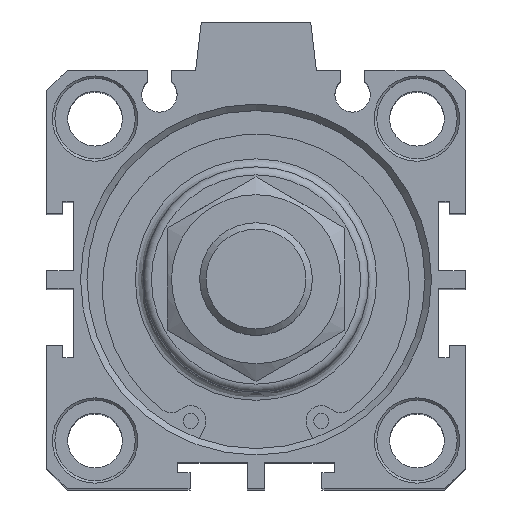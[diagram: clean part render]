
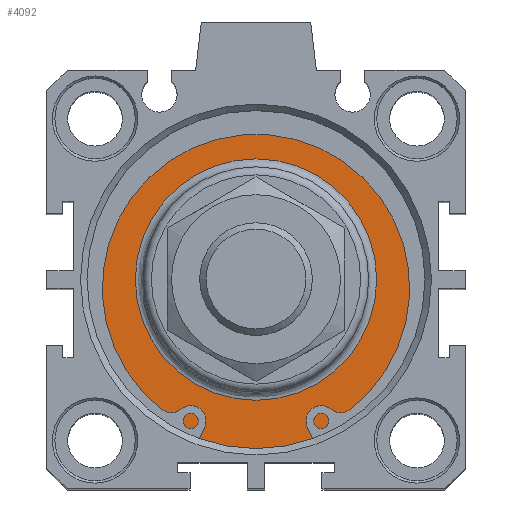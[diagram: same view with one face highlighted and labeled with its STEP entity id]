
A CAD part, top view. The second image highlights one B-rep face of the part: STEP entity #4092.
In plain terms, the highlighted planar face has unit normal (0, 0, 1).
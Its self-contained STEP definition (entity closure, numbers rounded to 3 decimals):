
#4041=CARTESIAN_POINT('',(-1.555,16.077,82.4));
#4042=VERTEX_POINT('',#4041);
#4043=CARTESIAN_POINT('',(-1.555,1.077,82.4));
#4044=DIRECTION('',(0.0,0.0,1.0));
#4045=DIRECTION('',(0.0,-1.0,0.0));
#4046=AXIS2_PLACEMENT_3D('',#4043,#4044,#4045);
#4047=CIRCLE('',#4046,15.0);
#4048=EDGE_CURVE('',#4042,#4042,#4047,.T.);
#4073=CARTESIAN_POINT('',(-1.555,18.577,82.4));
#4074=DIRECTION('',(0.0,0.0,1.0));
#4075=DIRECTION('',(1.0,0.0,0.0));
#4076=AXIS2_PLACEMENT_3D('',#4073,#4074,#4075);
#4077=PLANE('',#4076);
#4078=CARTESIAN_POINT('',(-1.555,22.077,82.4));
#4079=VERTEX_POINT('',#4078);
#4080=CARTESIAN_POINT('',(-1.555,1.077,82.4));
#4081=DIRECTION('',(0.0,0.0,-1.0));
#4082=DIRECTION('',(0.0,1.0,0.0));
#4083=AXIS2_PLACEMENT_3D('',#4080,#4081,#4082);
#4084=CIRCLE('',#4083,21.);
#4085=EDGE_CURVE('',#4079,#4079,#4084,.T.);
#4086=ORIENTED_EDGE('',*,*,#4085,.F.);
#4087=EDGE_LOOP('',(#4086));
#4088=FACE_OUTER_BOUND('',#4087,.T.);
#4089=ORIENTED_EDGE('',*,*,#4048,.F.);
#4090=EDGE_LOOP('',(#4089));
#4091=FACE_BOUND('',#4090,.T.);
#4092=ADVANCED_FACE('',(#4088,#4091),#4077,.T.);
